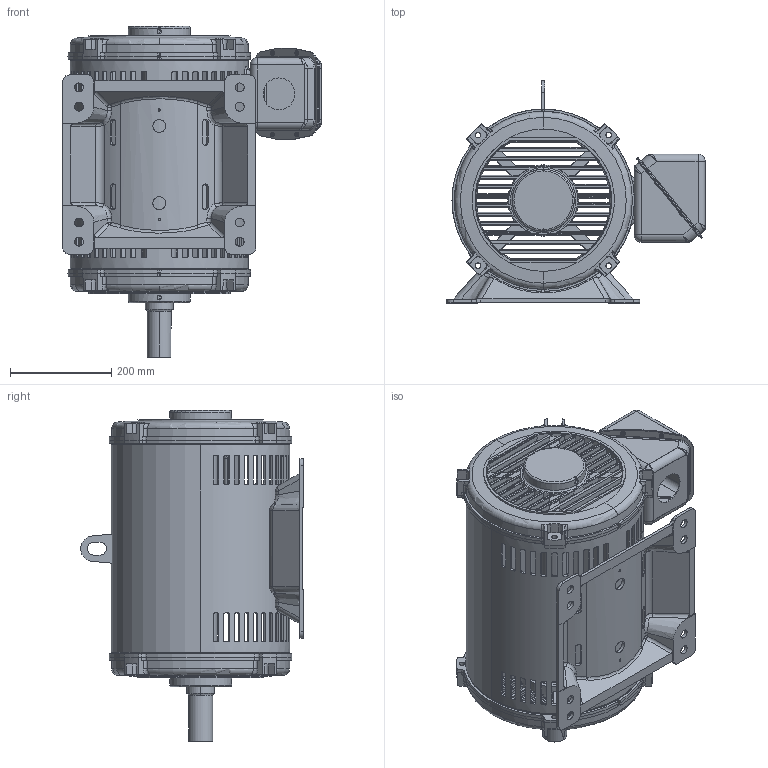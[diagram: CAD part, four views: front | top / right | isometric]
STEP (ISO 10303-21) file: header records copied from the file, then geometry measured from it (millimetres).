
FILE_DESCRIPTION((''),'2;1');
FILE_NAME('320_FULL_ASSY_ASM','2014-08-07T',('NMC779F'),('Nidec Motor Corporation'),'PRO/ENGINEER BY PARAMETRIC TECHNOLOGY CORPORATION, 2013150','PRO/ENGINEER BY PARAMETRIC TECHNOLOGY CORPORATION, 2013150','');
FILE_SCHEMA(('CONFIG_CONTROL_DESIGN'));
Length unit declared in the file: inch
Products named in the file (11): 320_D_FRAME; 0393774-001; 0393774-002; 0561420; 0141017; 0521682; 0392792; 0391696; 0378793; 0378794; 320_FULL_ASSY_ASM
Assembly tree (10 placements, depth 2):
  320_FULL_ASSY_ASM
    320_D_FRAME
    0393774-001
    0393774-002
    0561420
    0141017
    0521682
    0392792
    0391696
    0378793
    0378794
Bounding box: 510.24 x 439.11 x 653.96 mm (x, y, z)
Volume: 8239605.3 mm3; surface area: 2522416.3 mm2
Topology: 14 solids, 14 shells, 2303 faces, 6355 edges, 3996 vertices
Faces by surface type: plane 922, cylinder 708, cone 251, bspline 248, torus 158, sphere 16
Entity records: 87706 total; most frequent: CARTESIAN_POINT 32521, ORIENTED_EDGE 12662, DIRECTION 10015, EDGE_CURVE 6331, VERTEX_POINT 3996, AXIS2_PLACEMENT_3D 3827, EDGE_LOOP 2529, VECTOR 2361
